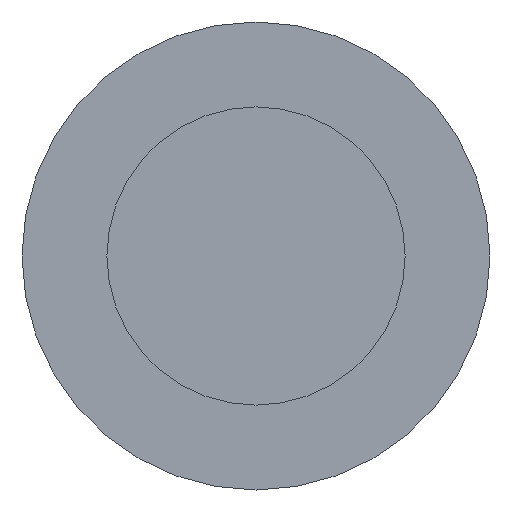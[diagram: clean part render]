
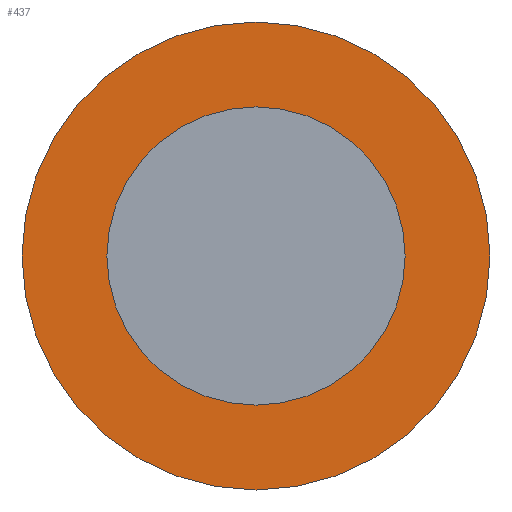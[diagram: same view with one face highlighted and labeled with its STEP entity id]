
A CAD part, front view. The second image highlights one B-rep face of the part: STEP entity #437.
In plain terms, the highlighted planar face has unit normal (0, -1, 0).
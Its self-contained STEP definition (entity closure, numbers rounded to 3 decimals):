
#5 = DIRECTION ( 'NONE',  ( 0., 0., -1. ) ) ;
#7 = AXIS2_PLACEMENT_3D ( 'NONE', #590, #431, #583 ) ;
#18 = CIRCLE ( 'NONE', #7, 2.746 ) ;
#23 = ORIENTED_EDGE ( 'NONE', *, *, #196, .T. ) ;
#68 = PLANE ( 'NONE',  #99 ) ;
#98 = DIRECTION ( 'NONE',  ( 0., -1., 0. ) ) ;
#99 = AXIS2_PLACEMENT_3D ( 'NONE', #265, #464, #5 ) ;
#102 = EDGE_CURVE ( 'NONE', #658, #206, #406, .T. ) ;
#110 = AXIS2_PLACEMENT_3D ( 'NONE', #208, #98, #199 ) ;
#130 = CARTESIAN_POINT ( 'NONE',  ( 12., -22.5, 45. ) ) ;
#140 = ORIENTED_EDGE ( 'NONE', *, *, #269, .F. ) ;
#196 = EDGE_CURVE ( 'NONE', #206, #658, #18, .T. ) ;
#199 = DIRECTION ( 'NONE',  ( 0., 0., -1. ) ) ;
#206 = VERTEX_POINT ( 'NONE', #289 ) ;
#207 = CIRCLE ( 'NONE', #110, 1.75 ) ;
#208 = CARTESIAN_POINT ( 'NONE',  ( 12., -22.5, 45. ) ) ;
#223 = VERTEX_POINT ( 'NONE', #508 ) ;
#227 = VERTEX_POINT ( 'NONE', #656 ) ;
#265 = CARTESIAN_POINT ( 'NONE',  ( 12., -22.5, 42.254 ) ) ;
#267 = CARTESIAN_POINT ( 'NONE',  ( 12., -22.5, 42.254 ) ) ;
#268 = FACE_BOUND ( 'NONE', #578, .T. ) ;
#269 = EDGE_CURVE ( 'NONE', #227, #223, #207, .T. ) ;
#274 = EDGE_LOOP ( 'NONE', ( #377, #23 ) ) ;
#289 = CARTESIAN_POINT ( 'NONE',  ( 12., -22.5, 47.746 ) ) ;
#333 = DIRECTION ( 'NONE',  ( 0., 0., -1. ) ) ;
#376 = AXIS2_PLACEMENT_3D ( 'NONE', #130, #586, #333 ) ;
#377 = ORIENTED_EDGE ( 'NONE', *, *, #102, .T. ) ;
#406 = CIRCLE ( 'NONE', #563, 2.746 ) ;
#431 = DIRECTION ( 'NONE',  ( 0., -1., 0. ) ) ;
#437 = ADVANCED_FACE ( 'NONE', ( #472, #268 ), #68, .T. ) ;
#443 = DIRECTION ( 'NONE',  ( 0., 0., -1. ) ) ;
#463 = ORIENTED_EDGE ( 'NONE', *, *, #613, .F. ) ;
#464 = DIRECTION ( 'NONE',  ( 0., -1., 0. ) ) ;
#471 = CIRCLE ( 'NONE', #376, 1.75 ) ;
#472 = FACE_OUTER_BOUND ( 'NONE', #274, .T. ) ;
#508 = CARTESIAN_POINT ( 'NONE',  ( 12., -22.5, 46.75 ) ) ;
#540 = DIRECTION ( 'NONE',  ( 0., -1., 0. ) ) ;
#563 = AXIS2_PLACEMENT_3D ( 'NONE', #593, #540, #443 ) ;
#578 = EDGE_LOOP ( 'NONE', ( #140, #463 ) ) ;
#583 = DIRECTION ( 'NONE',  ( 0., 0., -1. ) ) ;
#586 = DIRECTION ( 'NONE',  ( 0., -1., 0. ) ) ;
#590 = CARTESIAN_POINT ( 'NONE',  ( 12., -22.5, 45. ) ) ;
#593 = CARTESIAN_POINT ( 'NONE',  ( 12., -22.5, 45. ) ) ;
#613 = EDGE_CURVE ( 'NONE', #223, #227, #471, .T. ) ;
#656 = CARTESIAN_POINT ( 'NONE',  ( 12., -22.5, 43.25 ) ) ;
#658 = VERTEX_POINT ( 'NONE', #267 ) ;
